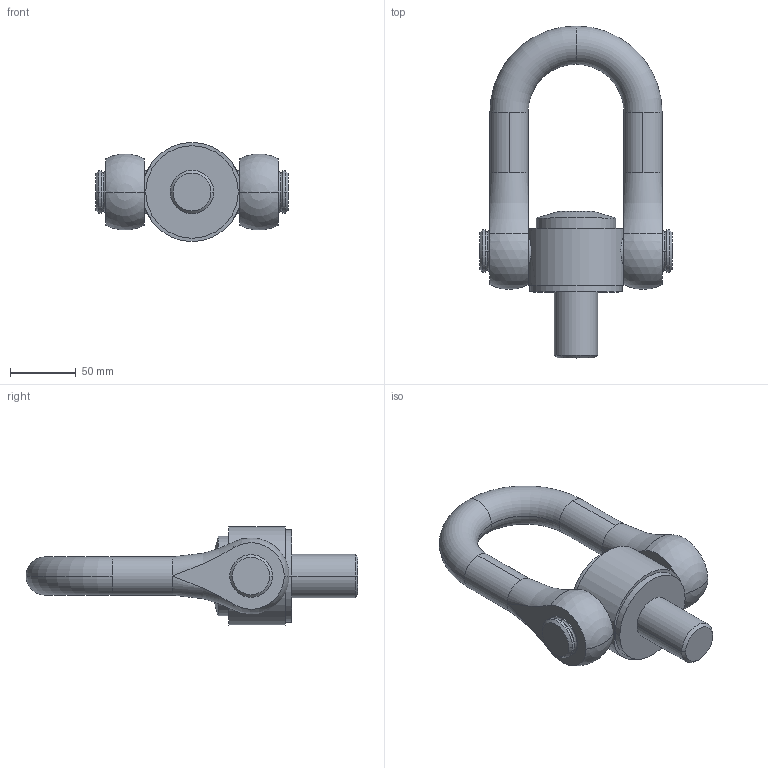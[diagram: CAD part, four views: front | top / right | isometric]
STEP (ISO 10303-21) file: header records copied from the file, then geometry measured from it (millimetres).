
FILE_DESCRIPTION( ( '' ), '1' );
FILE_NAME( 'c:/Temp/codipro/codipro_ss.dss_m33_90', '2011-05-12T08:15:27', ( '' ), ( '' ), ' ', ' ', ' ' );
FILE_SCHEMA( ( 'automotive_design' ) );
Length unit declared in the file: millimetre
Products named in the file (2): 1; 2
Bounding box: 145.5 x 251.5 x 74.72 mm (x, y, z)
Volume: 650684.7 mm3; surface area: 84279 mm2
Topology: 2 solids, 2 shells, 74 faces, 186 edges, 116 vertices
Faces by surface type: cylinder 24, plane 22, torus 16, cone 8, sphere 4
Entity records: 4545 total; most frequent: CARTESIAN_POINT 578, DIRECTION 432, STYLED_ITEM 374, PRESENTATION_STYLE_ASSIGNMENT 374, COLOUR_RGB 374, ORIENTED_EDGE 364, AXIS2_PLACEMENT_3D 186, EDGE_CURVE 182
